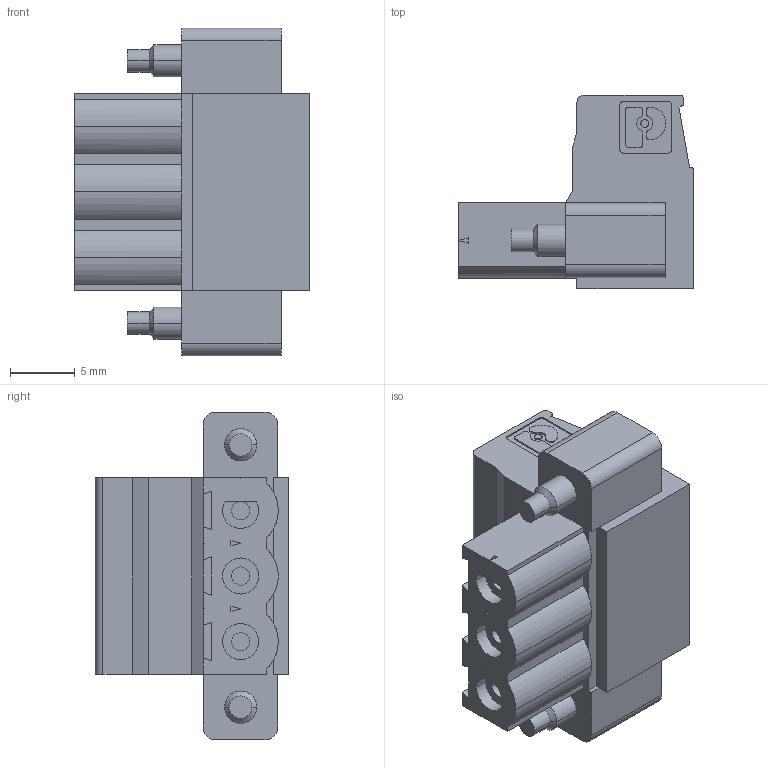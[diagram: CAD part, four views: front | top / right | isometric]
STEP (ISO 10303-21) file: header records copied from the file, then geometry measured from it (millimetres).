
FILE_DESCRIPTION(('SolidDesigner STEP Export'),'2;1');
FILE_NAME('mstb_2.5-hc-3-stf-5.08.stp','2003-10-06T12:45:40',(''),(''),'OneSpaceDesigner STEP processor Version: 9.0 (March 2001)for AP214(CD)(Solid Model)','CoCreate OneSpaceDesigner: 11.50A 18-Jul-2002(C) CoCreate Software GmbH','');
FILE_SCHEMA(('AUTOMOTIVE_DESIGN_CC2 {1 2 10303 214 -1 1 5 1}'));
Length unit declared in the file: millimetre
Products named in the file (2): mstb_2.5-hc-3-stf-5.08
Assembly tree (1 placements, depth 2):
  mstb_2.5-hc-3-stf-5.08
    mstb_2.5-hc-3-stf-5.08
Bounding box: 18.2 x 15 x 25.4 mm (x, y, z)
Volume: 2920.7 mm3; surface area: 2213.6 mm2
Topology: 1 solids, 1 shells, 302 faces, 757 edges, 493 vertices
Faces by surface type: plane 206, cylinder 86, torus 6, cone 4
Entity records: 10856 total; most frequent: ORIENTED_EDGE 1514, CARTESIAN_POINT 1433, DIRECTION 1358, EDGE_CURVE 757, VECTOR 522, LINE 522, VERTEX_POINT 493, AXIS2_PLACEMENT_3D 418
